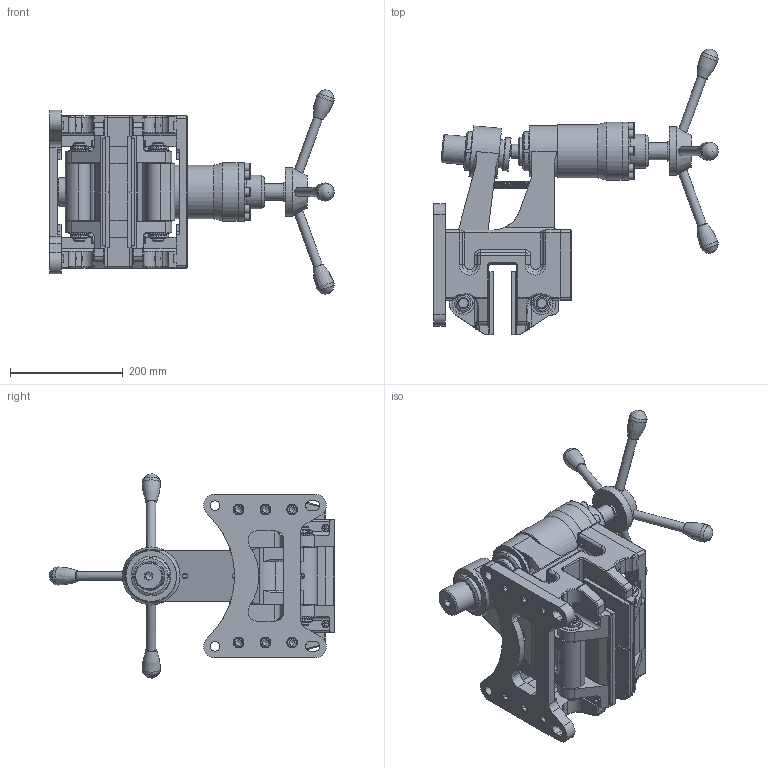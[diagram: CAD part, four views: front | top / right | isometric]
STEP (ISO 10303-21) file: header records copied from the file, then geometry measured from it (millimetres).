
FILE_DESCRIPTION(/* description */ ('','CAx-IF Rec.Pracs.---Representation and Presentation of Product Manufacturing Information (PMI)---4.0---2014-10-13'),/* implementation_level */ '2;1');
FILE_NAME(/* name */ 'X:\INVENTOR\DISEGNI\19_Pinze\STEP x Sito\MANUALI\19_16_600_05 PMTP600_30.stp',/* time_stamp */ '2018-10-26T11:04:12+02:00',/* author */ ('stefano'),/* organization */ (''),/* preprocessor_version */ 'ST-DEVELOPER v17',/* originating_system */ 'Autodesk Inventor 2018',/* authorisation */ '');
FILE_SCHEMA (('AP242_MANAGED_MODEL_BASED_3D_ENGINEERING_MIM_LF { 1 0 10303 442 1 1 4 }'));
Products named in the file (1): 19_16_600_05 PMTP600_30_Substitute_2
Bounding box: 504.6 x 507.43 x 362.87 mm (x, y, z)
Volume: 9139740.1 mm3; surface area: 1000033.6 mm2
Topology: 1 solids, 1 shells, 1540 faces, 4219 edges, 2741 vertices
Faces by surface type: plane 760, cylinder 435, torus 161, cone 122, bspline 46, sphere 16
Full cylindrical faces by diameter (mm): 1.8 x2, 2.5 x1, 3 x1, 5.188 x1, 7.4 x2, 7.5 x2, 8 x8, 8.376 x1, 8.5 x8, 8.917 x2, 9 x2, 9.188 x1, 10 x2, 10.106 x12, 10.5 x5, 12 x12, 12.5 x12, 13 x8, 13.5 x8, 14 x1, 16 x12, 16.5 x4, 17 x2, 18 x13, 19 x12, 20 x12, 22 x6, 25 x4, 30 x1, 32 x1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
Entity records: 58358 total; most frequent: CARTESIAN_POINT 17695, ORIENTED_EDGE 8326, DIRECTION 8311, EDGE_CURVE 4163, AXIS2_PLACEMENT_3D 3149, VERTEX_POINT 2741, LINE 2013, VECTOR 2013
